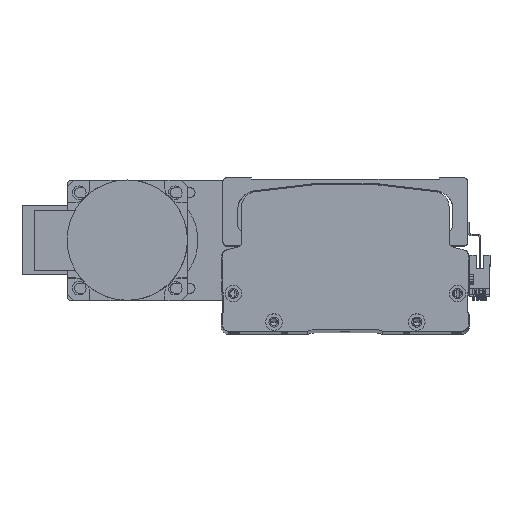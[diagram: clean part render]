
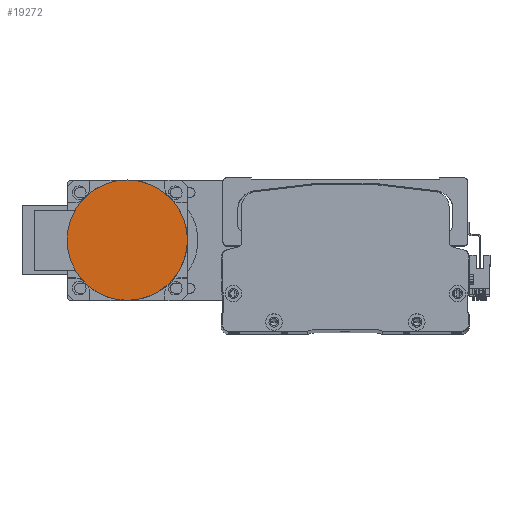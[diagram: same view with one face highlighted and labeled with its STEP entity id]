
A CAD part, top view. The second image highlights one B-rep face of the part: STEP entity #19272.
In plain terms, the highlighted planar face has unit normal (0, 0, 1) as drawn and (0, -1, 0) by its records, which use the part's own axes.
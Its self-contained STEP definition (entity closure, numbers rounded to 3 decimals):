
#4676 = DIRECTION ( 'NONE',  ( 0., 0., -1. ) ) ;
#7832 = PLANE ( 'NONE',  #13769 ) ;
#12364 = FACE_OUTER_BOUND ( 'NONE', #13534, .T. ) ;
#12694 = DIRECTION ( 'NONE',  ( 0., 0., 1. ) ) ;
#13400 = CIRCLE ( 'NONE', #35890, 40. ) ;
#13534 = EDGE_LOOP ( 'NONE', ( #52464, #48279 ) ) ;
#13769 = AXIS2_PLACEMENT_3D ( 'NONE', #32037, #26962, #12694 ) ;
#16775 = CARTESIAN_POINT ( 'NONE',  ( 0., -27., 0. ) ) ;
#18498 = CARTESIAN_POINT ( 'NONE',  ( 0., -27., 40. ) ) ;
#19272 = ADVANCED_FACE ( 'NONE', ( #12364 ), #7832, .F. ) ;
#21614 = DIRECTION ( 'NONE',  ( 0., 0., -1. ) ) ;
#25139 = VERTEX_POINT ( 'NONE', #18498 ) ;
#26962 = DIRECTION ( 'NONE',  ( 0., 1., 0. ) ) ;
#31738 = CARTESIAN_POINT ( 'NONE',  ( 0., -27., -40. ) ) ;
#32037 = CARTESIAN_POINT ( 'NONE',  ( 0., -27., 0. ) ) ;
#33747 = DIRECTION ( 'NONE',  ( 0., -1., 0. ) ) ;
#35890 = AXIS2_PLACEMENT_3D ( 'NONE', #62813, #33747, #4676 ) ;
#36199 = VERTEX_POINT ( 'NONE', #31738 ) ;
#47162 = EDGE_CURVE ( 'NONE', #36199, #25139, #13400, .T. ) ;
#48279 = ORIENTED_EDGE ( 'NONE', *, *, #49482, .T. ) ;
#49482 = EDGE_CURVE ( 'NONE', #25139, #36199, #59294, .T. ) ;
#50715 = DIRECTION ( 'NONE',  ( 0., -1., 0. ) ) ;
#52464 = ORIENTED_EDGE ( 'NONE', *, *, #47162, .T. ) ;
#55154 = AXIS2_PLACEMENT_3D ( 'NONE', #16775, #50715, #21614 ) ;
#59294 = CIRCLE ( 'NONE', #55154, 40. ) ;
#62813 = CARTESIAN_POINT ( 'NONE',  ( 0., -27., 0. ) ) ;
